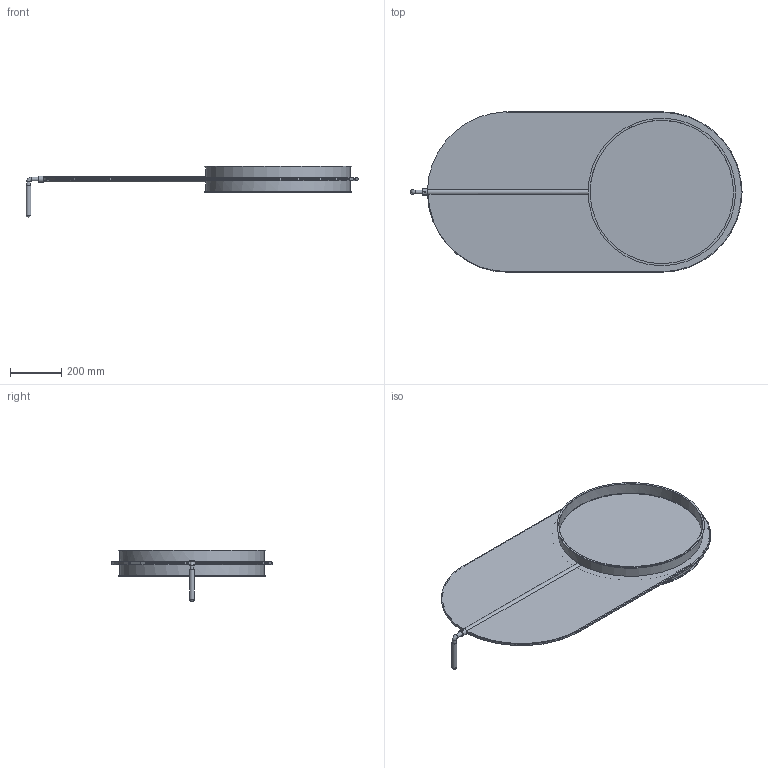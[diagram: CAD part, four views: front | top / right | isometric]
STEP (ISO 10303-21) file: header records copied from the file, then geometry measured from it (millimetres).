
FILE_DESCRIPTION((''),'2;1');
FILE_NAME('U:\Wolfgang\Marcel-3D\fertig\Kapitel 9\5621077.stp','2011-10-11T13:04:27',('iwienholt'),(''),'Autodesk Inventor 2010','Autodesk Inventor 2010','');
FILE_SCHEMA(('AUTOMOTIVE_DESIGN { 1 0 10303 214 1 1 1 1 }'));
Length unit declared in the file: millimetre
Products named in the file (3): 5621077; 5621077-1; Hebel-Ronde DN560
Assembly tree (2 placements, depth 2):
  5621077
    5621077-1
    Hebel-Ronde DN560
Bounding box: 1291.76 x 624 x 199.43 mm (x, y, z)
Volume: 3534588.7 mm3; surface area: 2774828.1 mm2
Topology: 2 solids, 2 shells, 49 faces, 125 edges, 80 vertices
Faces by surface type: cylinder 24, plane 19, torus 5, sphere 1
Full cylindrical faces by diameter (mm): 6.647 x1, 15 x2, 15.5 x1, 19 x1, 21 x1, 25 x1, 558 x2, 562 x2, 574 x2
Entity records: 1654 total; most frequent: CARTESIAN_POINT 497, DIRECTION 234, ORIENTED_EDGE 196, AXIS2_PLACEMENT_3D 100, EDGE_CURVE 98, EDGE_LOOP 72, VERTEX_POINT 70, FACE_OUTER_BOUND 49
